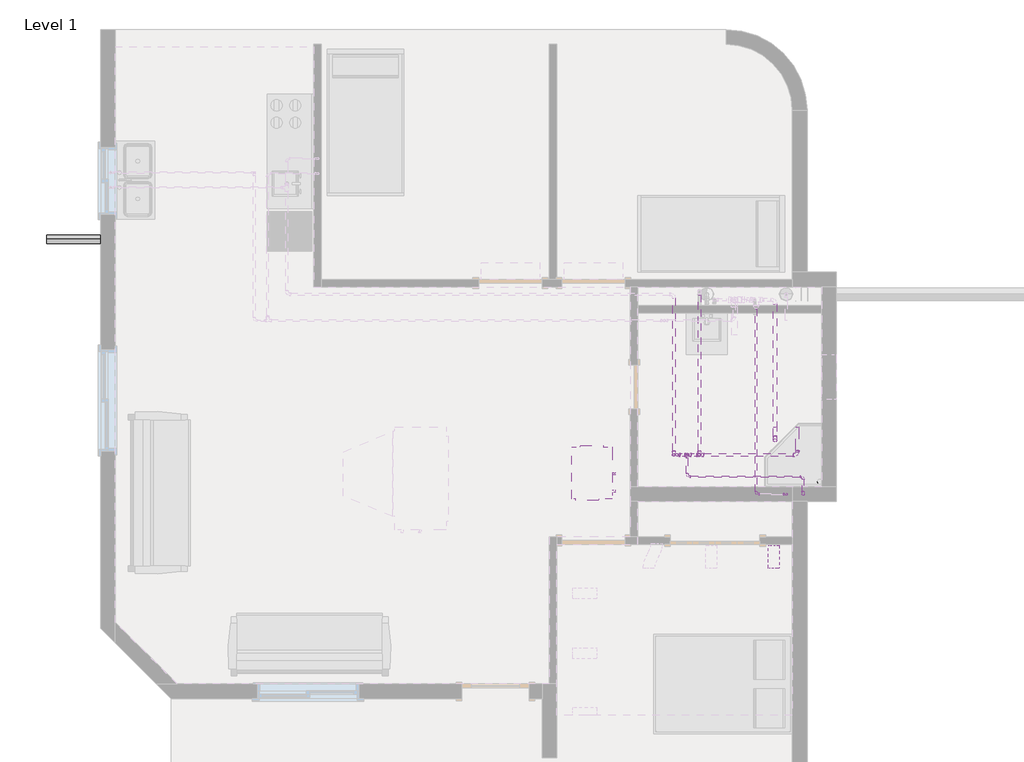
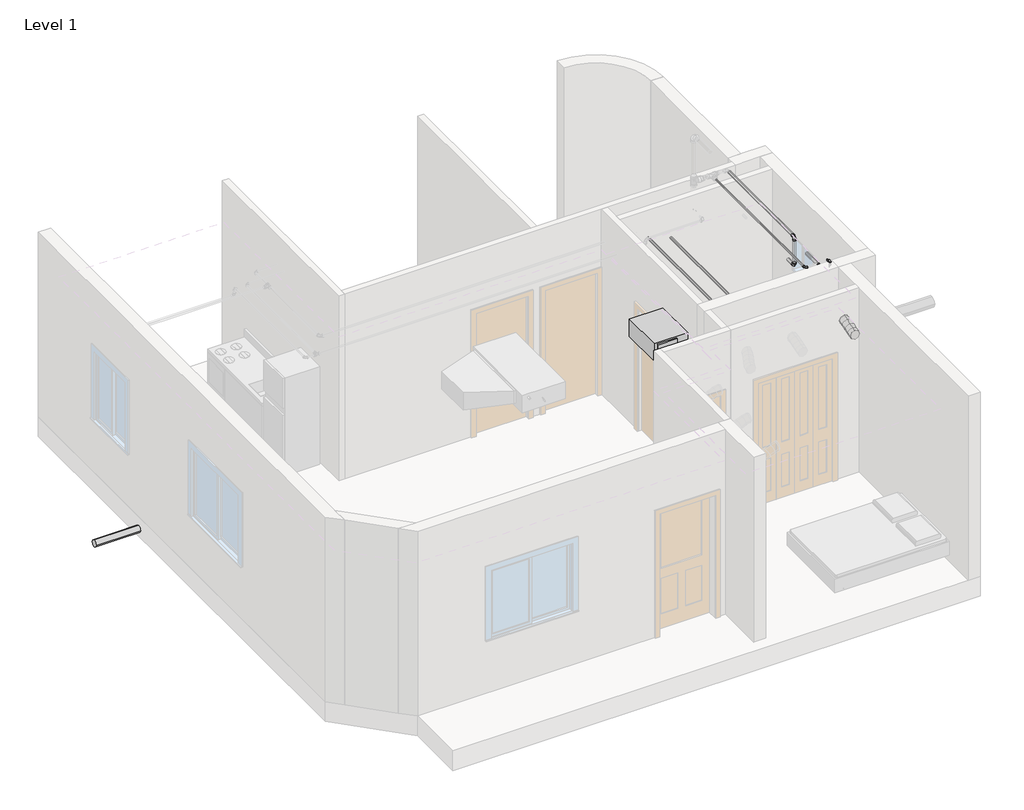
# One storey, part 3 of 5: 24 pipe segments, 22 pipe fittings, 1 duct segment, 1 proxy.
"""IFC4 building model written with IfcOpenShell, lengths in millimetres."""

from ifc_helpers import new_model, si_unit, point, frame, frame_2d, origin, place, context, project, spatial, circle_curve, ellipse_curve, trimmed, segment, composite_curve, outline, extrude, transform, mapped, element, save
from ifc_brep_helpers import plane_surface, cylinder_surface, advanced_brep
from components import mechanical_equipment_27d020f6, m_bend_pvc_sch_40_dwv_standard_48d77e49, m_bend_pvc_sch_40_dwv_standard_b153bf5a, m_bend_pvc_sch_40_dwv_standard_42e46e6b, m_bend_pvc_sch_40_dwv_standard_1fb0f857, m_bend_pvc_sch_40_dwv_standard_1eaeee76, m_reducer_pvc_sch_40_dwv_standard_06ee5028, m_reducer_pvc_sch_40_dwv_standard_e0017546, m_reducer_pvc_sch_40_dwv_standard_3fc35695, m_tee_sanitary_pvc_sch_40_dwv_standard_8136c827, m_tee_sanitary_pvc_sch_40_dwv_standard_2f7d5431, m_tee_sanitary_pvc_sch_40_dwv_standard_d1848222

model = new_model("IFC4")

# Units and contexts
model_context = context("Model", 3, world=origin())
ifc_project = project(units=[si_unit("LENGTHUNIT", "METRE", prefix="MILLI")], contexts=[model_context])

# Site, building, storey
site = spatial("IfcSite", under=ifc_project)
building = spatial("IfcBuilding", under=site)
storey = spatial("IfcBuildingStorey", under=building, Name="Level 1", Elevation=0.0)

# Proxy
placement = place(None, origin())
mechanical_equipment_shape = mechanical_equipment_27d020f6(model_context)
element("IfcBuildingElementProxy", 1, Name="Fan_Coil_Unit-Daikin-FXSQ-P-StandardDuct-RetAirBack : 2.9kW, 230V/50Hz/1Ph", ObjectType="Fan_Coil_Unit-Daikin-FXSQ-P-StandardDuct-RetAirBack : 2.9kW, 230V/50Hz/1Ph", at=placement, inside=storey, context=model_context, shape_type="MappedRepresentation", body=[
    mapped(mechanical_equipment_shape, transform((-10685.2201033, -1785.4324328, 2600.0), x_axis=(1.0, 0.0, 0.0), y_axis=(0.0, 1.0, 0.0), z_axis=(0.0, 0.0, 1.0))),
])

# Duct segment
element("IfcDuctSegment", 2, ObjectType="Flex - Round", at=placement, inside=storey, context=model_context, shape_type="AdvancedBrep", body=[
    advanced_brep(
    [(-8287.4123896, -3081.9324328, 2659.95), (-8212.4123896, -3081.9324328, 2584.95), (-8137.4123896, -3081.9324328, 2659.95), (-8212.4123896, -3081.9324328, 2734.95), (-8287.4123896, -3070.077247, 2659.95), (-8212.4123896, -3063.0805395, 2584.95), (-8137.4123896, -3070.077247, 2659.95), (-8212.4123896, -3077.0739544, 2734.95), (-8287.4123896, -3002.6244853, 2672.6457498), (-8212.4123896, -2982.827057, 2600.0550618), (-8137.4123896, -3002.6244853, 2672.6457498), (-8212.4123896, -3022.4219137, 2745.2364378), (-8287.4123896, -2925.2596658, 2700.5763993), (-8212.4123896, -2899.7916924, 2630.032921), (-8137.4123896, -2925.2596658, 2700.5763993), (-8212.4123896, -2950.7276393, 2771.1198776), (-8287.4123896, -2768.5868988, 2741.2027987), (-8212.4123896, -2768.5868988, 2816.2027987), (-8137.4123896, -2768.5868988, 2741.2027987), (-8212.4123896, -2768.5868988, 2666.2027987), (-8287.4123896, -2847.8948463, 2728.5070489), (-8212.4123896, -2828.097418, 2655.9163609), (-8137.4123896, -2847.8948463, 2728.5070489), (-8212.4123896, -2867.6922746, 2801.0977368), (-8287.4123896, -2780.4420847, 2741.2027987), (-8212.4123896, -2773.4453772, 2666.2027987), (-8137.4123896, -2780.4420847, 2741.2027987), (-8212.4123896, -2787.4387921, 2816.2027987)],
    [
        (0, 1, circle_curve(frame((-8212.4123896, -3081.9324328, 2659.95), z_axis=(0.0, -1.0, 0.0), x_axis=(-1.0, 0.0, 0.0)), 75.0)),
        (1, 2, circle_curve(frame((-8212.4123896, -3081.9324328, 2659.95), z_axis=(0.0, -1.0, 0.0), x_axis=(-1.0, 0.0, 0.0)), 75.0)),
        (2, 3, circle_curve(frame((-8212.4123896, -3081.9324328, 2659.95), z_axis=(0.0, -1.0, 0.0), x_axis=(-1.0, 0.0, 0.0)), 75.0)),
        (3, 0, circle_curve(frame((-8212.4123896, -3081.9324328, 2659.95), z_axis=(0.0, -1.0, 0.0), x_axis=(-1.0, 0.0, 0.0)), 75.0)),
        (0, 4),
        (4, 5, ellipse_curve(frame((-8212.4123896, -3070.077247, 2659.95), z_axis=(0.0, -0.9956767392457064, -0.092886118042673), x_axis=(0.0, -0.09288611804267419, 0.9956767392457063)), 75.3256524, 75.0)),
        (5, 1),
        (5, 6, ellipse_curve(frame((-8212.4123896, -3070.077247, 2659.95), z_axis=(0.0, -0.9956767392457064, -0.092886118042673), x_axis=(0.0, -0.09288611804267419, 0.9956767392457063)), 75.3256524, 75.0)),
        (6, 2),
        (6, 7, ellipse_curve(frame((-8212.4123896, -3070.077247, 2659.95), z_axis=(0.0, -0.9956767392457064, -0.092886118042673), x_axis=(0.0, -0.09288611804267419, 0.9956767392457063)), 75.3256524, 75.0)),
        (7, 3),
        (7, 4, ellipse_curve(frame((-8212.4123896, -3070.077247, 2659.95), z_axis=(0.0, -0.9956767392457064, -0.092886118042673), x_axis=(0.0, -0.09288611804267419, 0.9956767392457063)), 75.3256524, 75.0)),
        (4, 8),
        (8, 9, ellipse_curve(frame((-8212.4123896, -3002.6244853, 2672.6457498), z_axis=(0.0, -0.9647639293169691, -0.263117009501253), x_axis=(0.0, -0.26311700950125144, 0.9647639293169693)), 75.2419175, 75.0)),
        (9, 5),
        (9, 10, ellipse_curve(frame((-8212.4123896, -3002.6244853, 2672.6457498), z_axis=(0.0, -0.9647639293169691, -0.263117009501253), x_axis=(0.0, -0.26311700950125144, 0.9647639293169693)), 75.2419175, 75.0)),
        (10, 6),
        (10, 11, ellipse_curve(frame((-8212.4123896, -3002.6244853, 2672.6457498), z_axis=(0.0, -0.9647639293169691, -0.263117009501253), x_axis=(0.0, -0.26311700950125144, 0.9647639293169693)), 75.2419175, 75.0)),
        (11, 7),
        (11, 8, ellipse_curve(frame((-8212.4123896, -3002.6244853, 2672.6457498), z_axis=(0.0, -0.9647639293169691, -0.263117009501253), x_axis=(0.0, -0.26311700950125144, 0.9647639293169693)), 75.2419175, 75.0)),
        (8, 12),
        (12, 13, circle_curve(frame((-8212.4123896, -2925.2596658, 2700.5763993), z_axis=(0.0, -0.9405797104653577, -0.33957297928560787), x_axis=(-1.0, 0.0, 0.0)), 75.0)),
        (13, 9),
        (13, 14, circle_curve(frame((-8212.4123896, -2925.2596658, 2700.5763993), z_axis=(0.0, -0.9405797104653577, -0.33957297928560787), x_axis=(-1.0, 0.0, 0.0)), 75.0)),
        (14, 10),
        (14, 15, circle_curve(frame((-8212.4123896, -2925.2596658, 2700.5763993), z_axis=(0.0, -0.9405797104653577, -0.33957297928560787), x_axis=(-1.0, 0.0, 0.0)), 75.0)),
        (15, 11),
        (15, 12, circle_curve(frame((-8212.4123896, -2925.2596658, 2700.5763993), z_axis=(0.0, -0.9405797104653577, -0.33957297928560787), x_axis=(-1.0, 0.0, 0.0)), 75.0)),
        (16, 17, circle_curve(frame((-8212.4123896, -2768.5868988, 2741.2027987), z_axis=(0.0, 1.0, 0.0), x_axis=(-1.0, 0.0, 0.0)), 75.0)),
        (17, 18, circle_curve(frame((-8212.4123896, -2768.5868988, 2741.2027987), z_axis=(0.0, 1.0, 0.0), x_axis=(-1.0, 0.0, 0.0)), 75.0)),
        (18, 19, circle_curve(frame((-8212.4123896, -2768.5868988, 2741.2027987), z_axis=(0.0, 1.0, 0.0), x_axis=(-1.0, 0.0, 0.0)), 75.0)),
        (19, 16, circle_curve(frame((-8212.4123896, -2768.5868988, 2741.2027987), z_axis=(0.0, 1.0, 0.0), x_axis=(-1.0, 0.0, 0.0)), 75.0)),
        (12, 20),
        (20, 21, ellipse_curve(frame((-8212.4123896, -2847.8948463, 2728.5070489), z_axis=(0.0, -0.9647639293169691, -0.26311700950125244), x_axis=(0.0, 0.2631170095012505, -0.9647639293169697)), 75.2419175, 75.0)),
        (21, 13),
        (21, 22, ellipse_curve(frame((-8212.4123896, -2847.8948463, 2728.5070489), z_axis=(0.0, -0.9647639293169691, -0.26311700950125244), x_axis=(0.0, 0.2631170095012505, -0.9647639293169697)), 75.2419175, 75.0)),
        (22, 14),
        (22, 23, ellipse_curve(frame((-8212.4123896, -2847.8948463, 2728.5070489), z_axis=(0.0, -0.9647639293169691, -0.26311700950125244), x_axis=(0.0, 0.2631170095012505, -0.9647639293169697)), 75.2419175, 75.0)),
        (23, 15),
        (23, 20, ellipse_curve(frame((-8212.4123896, -2847.8948463, 2728.5070489), z_axis=(0.0, -0.9647639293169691, -0.26311700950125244), x_axis=(0.0, 0.2631170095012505, -0.9647639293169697)), 75.2419175, 75.0)),
        (20, 24),
        (24, 25, ellipse_curve(frame((-8212.4123896, -2780.4420847, 2741.2027987), z_axis=(0.0, -0.9956767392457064, -0.09288611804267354), x_axis=(0.0, 0.09288611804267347, -0.9956767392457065)), 75.3256524, 75.0)),
        (25, 21),
        (25, 26, ellipse_curve(frame((-8212.4123896, -2780.4420847, 2741.2027987), z_axis=(0.0, -0.9956767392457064, -0.09288611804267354), x_axis=(0.0, 0.09288611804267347, -0.9956767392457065)), 75.3256524, 75.0)),
        (26, 22),
        (26, 27, ellipse_curve(frame((-8212.4123896, -2780.4420847, 2741.2027987), z_axis=(0.0, -0.9956767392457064, -0.09288611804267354), x_axis=(0.0, 0.09288611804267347, -0.9956767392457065)), 75.3256524, 75.0)),
        (27, 23),
        (27, 24, ellipse_curve(frame((-8212.4123896, -2780.4420847, 2741.2027987), z_axis=(0.0, -0.9956767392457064, -0.09288611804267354), x_axis=(0.0, 0.09288611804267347, -0.9956767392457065)), 75.3256524, 75.0)),
        (24, 16),
        (19, 25),
        (18, 26),
        (17, 27),
    ],
    [
        plane_surface(frame((-8287.4123896, -3081.9324328, 2659.95), z_axis=(0.0, -1.0, 0.0), x_axis=(0.0, 0.0, 1.0))),
        cylinder_surface(frame((-8212.4123896, -3081.9324328, 2659.95), z_axis=(0.0, -1.0, 0.0), x_axis=(-1.0, 0.0, 0.0)), 75.0),
        cylinder_surface(frame((-8212.4123896, -3070.077247, 2659.95), z_axis=(0.0, -0.9827443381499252, -0.18496909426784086), x_axis=(-1.0, 0.0, 0.0)), 75.0),
        cylinder_surface(frame((-8212.4123896, -3002.6244853, 2672.6457498), z_axis=(0.0, -0.9405797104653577, -0.33957297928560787), x_axis=(-1.0, 0.0, 0.0)), 75.0),
        plane_surface(frame((-8287.4123896, -2768.5868988, 2741.2027987), z_axis=(0.0, 1.0, 0.0), x_axis=(0.0, 0.0, 1.0))),
        cylinder_surface(frame((-8212.4123896, -2925.2596658, 2700.5763993), z_axis=(0.0, -0.9405797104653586, -0.3395729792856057), x_axis=(-1.0, 0.0, 0.0)), 75.0),
        cylinder_surface(frame((-8212.4123896, -2847.8948463, 2728.5070489), z_axis=(0.0, -0.9827443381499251, -0.18496909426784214), x_axis=(-1.0, 0.0, 0.0)), 75.0),
        cylinder_surface(frame((-8212.4123896, -2780.4420847, 2741.2027987), z_axis=(0.0, -1.0, 0.0), x_axis=(-1.0, 0.0, 0.0)), 75.0),
    ],
    [
        (0, [[1, 2, 3, 4]]),
        (1, [[-1, 5, 6, 7]]),
        (1, [[-2, -7, 8, 9]]),
        (1, [[-3, -9, 10, 11]]),
        (1, [[-4, -11, 12, -5]]),
        (2, [[-6, 13, 14, 15]]),
        (2, [[-8, -15, 16, 17]]),
        (2, [[-10, -17, 18, 19]]),
        (2, [[-12, -19, 20, -13]]),
        (3, [[-14, 21, 22, 23]]),
        (3, [[-16, -23, 24, 25]]),
        (3, [[-18, -25, 26, 27]]),
        (3, [[-20, -27, 28, -21]]),
        (4, [[29, 30, 31, 32]]),
        (5, [[-22, 33, 34, 35]]),
        (5, [[-24, -35, 36, 37]]),
        (5, [[-26, -37, 38, 39]]),
        (5, [[-28, -39, 40, -33]]),
        (6, [[-34, 41, 42, 43]]),
        (6, [[-36, -43, 44, 45]]),
        (6, [[-38, -45, 46, 47]]),
        (6, [[-40, -47, 48, -41]]),
        (7, [[-42, 49, -32, 50]]),
        (7, [[-44, -50, -31, 51]]),
        (7, [[-46, -51, -30, 52]]),
        (7, [[-48, -52, -29, -49]]),
    ],
),
])

# Pipe fittings
m_bend_pvc_sch_40_dwv_standard_shape = m_bend_pvc_sch_40_dwv_standard_48d77e49(model_context)
element("IfcPipeFitting", 3, ObjectType="M_Bend - PVC - Sch 40 - DWV : Standard", at=placement, inside=storey, context=model_context, shape_type="MappedRepresentation", body=[
    mapped(m_bend_pvc_sch_40_dwv_standard_shape, transform((-8198.1623896, -1340.0250154, 2800.0), x_axis=(0.0, 0.0, -1.0), y_axis=(0.0, 1.0, 0.0), z_axis=(1.0, 0.0, 0.0))),
])
element("IfcPipeFitting", 4, ObjectType="M_Bend - PVC - Sch 40 - DWV : Standard", at=placement, inside=storey, context=model_context, shape_type="MappedRepresentation", body=[
    mapped(m_bend_pvc_sch_40_dwv_standard_shape, transform((-7893.3623896, -1540.0250154, 2800.0), x_axis=(1.0, 0.0, 0.0), y_axis=(0.0, 1.0, 0.0), z_axis=(0.0, 0.0, 1.0))),
])
element("IfcPipeFitting", 5, ObjectType="M_Bend - PVC - Sch 40 - DWV : Standard", at=placement, inside=storey, context=model_context, shape_type="MappedRepresentation", body=[
    mapped(m_bend_pvc_sch_40_dwv_standard_shape, transform((-8198.1623896, -1340.0250154, 3300.0), x_axis=(0.0, 0.0, 1.0), y_axis=(0.0, 1.0, 0.0), z_axis=(-1.0, 0.0, 0.0))),
])
m_bend_pvc_sch_40_dwv_standard_2_shape = m_bend_pvc_sch_40_dwv_standard_b153bf5a(model_context)
element("IfcPipeFitting", 6, ObjectType="M_Bend - PVC - Sch 40 - DWV : Standard", at=placement, inside=storey, context=model_context, shape_type="MappedRepresentation", body=[
    mapped(m_bend_pvc_sch_40_dwv_standard_2_shape, transform((-9225.3942941, -1540.0250154, 2600.0), x_axis=(0.0, 0.0, -1.0), y_axis=(0.0, 1.0, 0.0), z_axis=(1.0, 0.0, 0.0))),
])
element("IfcPipeFitting", 7, ObjectType="M_Bend - PVC - Sch 40 - DWV : Standard", at=placement, inside=storey, context=model_context, shape_type="MappedRepresentation", body=[
    mapped(m_bend_pvc_sch_40_dwv_standard_2_shape, transform((-9572.9123897, -1540.0250154, 2690.0000079), x_axis=(0.0, 0.0, -1.0), y_axis=(0.0, 1.0, 0.0), z_axis=(1.0, 0.0, 0.0))),
])
element("IfcPipeFitting", 8, ObjectType="M_Bend - PVC - Sch 40 - DWV : Standard", at=placement, inside=storey, context=model_context, shape_type="MappedRepresentation", body=[
    mapped(m_bend_pvc_sch_40_dwv_standard_2_shape, transform((-9572.9123897, -1540.0250154, 2800.0), x_axis=(0.0, 0.0, 1.0), y_axis=(1.0, 0.0, 0.0), z_axis=(0.0, 1.0, 0.0))),
])
m_bend_pvc_sch_40_dwv_standard_3_shape = m_bend_pvc_sch_40_dwv_standard_42e46e6b(model_context)
element("IfcPipeFitting", 9, ObjectType="M_Bend - PVC - Sch 40 - DWV : Standard", at=placement, inside=storey, context=model_context, shape_type="MappedRepresentation", body=[
    mapped(m_bend_pvc_sch_40_dwv_standard_3_shape, transform((-7816.1123896, -2075.4324328, 914.4), x_axis=(0.0, -1.0, 0.0), y_axis=(0.0, 0.0, 1.0), z_axis=(-1.0, 0.0, 0.0))),
])
element("IfcPipeFitting", 10, ObjectType="M_Bend - PVC - Sch 40 - DWV : Standard", at=placement, inside=storey, context=model_context, shape_type="MappedRepresentation", body=[
    mapped(m_bend_pvc_sch_40_dwv_standard_3_shape, transform((-7816.1123896, -2075.4324328, 2600.0), x_axis=(0.0, 0.0, 1.0), y_axis=(0.0, 1.0, 0.0), z_axis=(-1.0, 0.0, 0.0))),
])
element("IfcPipeFitting", 11, ObjectType="M_Bend - PVC - Sch 40 - DWV : Standard", at=placement, inside=storey, context=model_context, shape_type="MappedRepresentation", body=[
    mapped(m_bend_pvc_sch_40_dwv_standard_3_shape, transform((-7816.1123896, -1835.4324328, 2600.0), x_axis=(0.0, 1.0, 0.0), y_axis=(-1.0, 0.0, 0.0), z_axis=(0.0, 0.0, 1.0))),
])
element("IfcPipeFitting", 12, ObjectType="M_Bend - PVC - Sch 40 - DWV : Standard", at=placement, inside=storey, context=model_context, shape_type="MappedRepresentation", body=[
    mapped(m_bend_pvc_sch_40_dwv_standard_3_shape, transform((-9391.1123896, -1835.4324328, 2600.0), x_axis=(0.0, -1.0, 0.0), y_axis=(1.0, 0.0, 0.0), z_axis=(0.0, 0.0, 1.0))),
])
element("IfcPipeFitting", 13, ObjectType="M_Bend - PVC - Sch 40 - DWV : Standard", at=placement, inside=storey, context=model_context, shape_type="MappedRepresentation", body=[
    mapped(m_bend_pvc_sch_40_dwv_standard_3_shape, transform((-9391.1123896, -1540.0250154, 2600.0), x_axis=(0.0, 1.0, 0.0), y_axis=(0.0, 0.0, 1.0), z_axis=(1.0, 0.0, 0.0))),
])
element("IfcPipeFitting", 14, ObjectType="M_Bend - PVC - Sch 40 - DWV : Standard", at=placement, inside=storey, context=model_context, shape_type="MappedRepresentation", body=[
    mapped(m_bend_pvc_sch_40_dwv_standard_3_shape, transform((-8044.7123896, -2075.4324328, 3300.0), x_axis=(0.0, 0.0, 1.0), y_axis=(-1.0, 0.0, 0.0), z_axis=(0.0, -1.0, 0.0))),
])
element("IfcPipeFitting", 15, ObjectType="M_Bend - PVC - Sch 40 - DWV : Standard", at=placement, inside=storey, context=model_context, shape_type="MappedRepresentation", body=[
    mapped(m_bend_pvc_sch_40_dwv_standard_3_shape, transform((-8453.6983271, -2075.4324328, 3300.0), x_axis=(0.0, -1.0, 0.0), y_axis=(1.0, 0.0, 0.0), z_axis=(0.0, 0.0, 1.0))),
])
m_bend_pvc_sch_40_dwv_standard_4_shape = m_bend_pvc_sch_40_dwv_standard_1fb0f857(model_context)
element("IfcPipeFitting", 16, ObjectType="M_Bend - PVC - Sch 40 - DWV : Standard", at=placement, inside=storey, context=model_context, shape_type="MappedRepresentation", body=[
    mapped(m_bend_pvc_sch_40_dwv_standard_4_shape, transform((-8472.9123896, -3.9730578, -205.0), x_axis=(0.0, 0.0, -1.0), y_axis=(0.0, 1.0, 0.0), z_axis=(1.0, 0.0, 0.0))),
])
m_bend_pvc_sch_40_dwv_standard_5_shape = m_bend_pvc_sch_40_dwv_standard_1eaeee76(model_context)
element("IfcPipeFitting", 17, ObjectType="M_Bend - PVC - Sch 40 - DWV : Standard", at=placement, inside=storey, context=model_context, shape_type="MappedRepresentation", body=[
    mapped(m_bend_pvc_sch_40_dwv_standard_5_shape, transform((-7589.6865833, -1905.1933223, -205.0897005), x_axis=(0.0, -1.0, 0.0), y_axis=(0.00127865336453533, 0.0, 0.9999991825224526), z_axis=(-0.9999991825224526, 0.0, 0.00127865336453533))),
])
m_reducer_pvc_sch_40_dwv_standard_shape = m_reducer_pvc_sch_40_dwv_standard_06ee5028(model_context)
element("IfcPipeFitting", 18, ObjectType="M_Reducer - PVC - Sch 40 - DWV : Standard", at=placement, inside=storey, context=model_context, shape_type="MappedRepresentation", body=[
    mapped(m_reducer_pvc_sch_40_dwv_standard_shape, transform((-9225.3942941, -1540.0250154, 2742.85), x_axis=(0.0, 0.0, -1.0), y_axis=(-1.0, 0.0, 0.0), z_axis=(0.0, 1.0, 0.0))),
])
m_reducer_pvc_sch_40_dwv_standard_2_shape = m_reducer_pvc_sch_40_dwv_standard_e0017546(model_context)
element("IfcPipeFitting", 19, ObjectType="M_Reducer - PVC - Sch 40 - DWV : Standard", at=placement, inside=storey, context=model_context, shape_type="MappedRepresentation", body=[
    mapped(m_reducer_pvc_sch_40_dwv_standard_2_shape, transform((-9391.1123896, -1540.0250154, 2710.0039062), x_axis=(0.0, 0.0, 1.0), y_axis=(-1.0, 0.0, 0.0), z_axis=(0.0, -1.0, 0.0))),
])
m_reducer_pvc_sch_40_dwv_standard_3_shape = m_reducer_pvc_sch_40_dwv_standard_3fc35695(model_context)
element("IfcPipeFitting", 20, ObjectType="M_Reducer - PVC - Sch 40 - DWV : Standard", at=placement, inside=storey, context=model_context, shape_type="MappedRepresentation", body=[
    mapped(m_reducer_pvc_sch_40_dwv_standard_3_shape, transform((-9520.2983272, -1540.0250154, 2800.0), x_axis=(1.0, 0.0, 0.0), y_axis=(0.0, 1.0, 0.0), z_axis=(0.0, 0.0, 1.0))),
])
m_tee_sanitary_pvc_sch_40_dwv_standard_shape = m_tee_sanitary_pvc_sch_40_dwv_standard_8136c827(model_context)
element("IfcPipeFitting", 21, ObjectType="M_Tee Sanitary - PVC - Sch 40 - DWV : Standard", at=placement, inside=storey, context=model_context, shape_type="MappedRepresentation", body=[
    mapped(m_tee_sanitary_pvc_sch_40_dwv_standard_shape, transform((-9225.3942941, -1540.0250154, 2800.0), x_axis=(-1.0, 0.0, 0.0), y_axis=(0.0, 0.0, 1.0), z_axis=(0.0, 1.0, 0.0))),
])
element("IfcPipeFitting", 22, ObjectType="M_Tee Sanitary - PVC - Sch 40 - DWV : Standard", at=placement, inside=storey, context=model_context, shape_type="MappedRepresentation", body=[
    mapped(m_tee_sanitary_pvc_sch_40_dwv_standard_shape, transform((-9391.1123896, -1540.0250154, 2800.0), x_axis=(-1.0, 0.0, 0.0), y_axis=(0.0, 0.0, 1.0), z_axis=(0.0, 1.0, 0.0))),
])
m_tee_sanitary_pvc_sch_40_dwv_standard_2_shape = m_tee_sanitary_pvc_sch_40_dwv_standard_2f7d5431(model_context)
element("IfcPipeFitting", 23, ObjectType="M_Tee Sanitary - PVC - Sch 40 - DWV : Standard", at=placement, inside=storey, context=model_context, shape_type="MappedRepresentation", body=[
    mapped(m_tee_sanitary_pvc_sch_40_dwv_standard_2_shape, transform((-16857.3123896, 1940.3425672, -205.0), x_axis=(0.0, 1.0, 0.0), y_axis=(0.0, 0.0, -1.0), z_axis=(-1.0, 0.0, 0.0))),
])
m_tee_sanitary_pvc_sch_40_dwv_standard_3_shape = m_tee_sanitary_pvc_sch_40_dwv_standard_d1848222(model_context)
element("IfcPipeFitting", 24, ObjectType="M_Tee Sanitary - PVC - Sch 40 - DWV : Standard", at=placement, inside=storey, context=model_context, shape_type="MappedRepresentation", body=[
    mapped(m_tee_sanitary_pvc_sch_40_dwv_standard_3_shape, transform((-16857.3123896, 1392.8931268, -205.0), x_axis=(1.0, 0.0, 0.0), y_axis=(0.0, -1.0, 0.0), z_axis=(0.0, 0.0, -1.0))),
])

# Pipe segments
element("IfcPipeSegment", 25, ObjectType="PVC - DWV", at=placement, inside=storey, context=model_context, shape_type="SweptSolid", body=[
    extrude(outline(composite_curve([segment(trimmed(circle_curve(frame_2d((2600.0, -9225.3942941)), 16.7005), [point((2600.0, -9242.0947941))], [point((2583.2995, -9225.3942941))], False, "CARTESIAN"), True, "CONTINUOUS"), segment(trimmed(circle_curve(frame_2d((2600.0, -9225.3942941)), 16.7005), [point((2583.2995, -9225.3942941))], [point((2600.0, -9208.6937941))], False, "CARTESIAN"), True, "CONTINUOUS"), segment(trimmed(circle_curve(frame_2d((2600.0, -9225.3942941)), 16.7005), [point((2600.0, -9208.6937941))], [point((2616.7005, -9225.3942941))], False, "CARTESIAN"), True, "CONTINUOUS"), segment(trimmed(circle_curve(frame_2d((2600.0, -9225.3942941)), 16.7005), [point((2616.7005, -9225.3942941))], [point((2600.0, -9242.0947941))], False, "CARTESIAN"), True, "CONTINUOUS")], self_intersect=False)), frame((0.0, -1487.4109529, 0.0), z_axis=(0.0, 1.0, 0.0), x_axis=(0.0, 0.0, 1.0)), (0.0, 0.0, 1.0), 2119.3644576),
])
element("IfcPipeSegment", 26, ObjectType="PVC - DWV", at=placement, inside=storey, context=model_context, shape_type="SweptSolid", body=[
    extrude(outline(composite_curve([segment(trimmed(circle_curve(frame_2d((914.4, -7816.1123896)), 10.668), [point((914.4, -7826.7803896))], [point((903.732, -7816.1123896))], False, "CARTESIAN"), True, "CONTINUOUS"), segment(trimmed(circle_curve(frame_2d((914.4, -7816.1123896)), 10.668), [point((903.732, -7816.1123896))], [point((914.4, -7805.4443896))], False, "CARTESIAN"), True, "CONTINUOUS"), segment(trimmed(circle_curve(frame_2d((914.4, -7816.1123896)), 10.668), [point((914.4, -7805.4443896))], [point((925.068, -7816.1123896))], False, "CARTESIAN"), True, "CONTINUOUS"), segment(trimmed(circle_curve(frame_2d((914.4, -7816.1123896)), 10.668), [point((925.068, -7816.1123896))], [point((914.4, -7826.7803896))], False, "CARTESIAN"), True, "CONTINUOUS")], self_intersect=False)), frame((0.0, -2034.4183703, 0.0), z_axis=(0.0, 1.0, 0.0), x_axis=(0.0, 0.0, 1.0)), (0.0, 0.0, 1.0), 58.9859375),
])
element("IfcPipeSegment", 27, ObjectType="PVC - DWV", at=placement, inside=storey, context=model_context, shape_type="SweptSolid", body=[
    extrude(outline(composite_curve([segment(trimmed(circle_curve(frame_2d((-7816.1123896, -2075.4324328)), 10.668), [point((-7826.7803896, -2075.4324328))], [point((-7816.1123896, -2064.7644328))], False, "CARTESIAN"), True, "CONTINUOUS"), segment(trimmed(circle_curve(frame_2d((-7816.1123896, -2075.4324328)), 10.668), [point((-7816.1123896, -2064.7644328))], [point((-7805.4443896, -2075.4324328))], False, "CARTESIAN"), True, "CONTINUOUS"), segment(trimmed(circle_curve(frame_2d((-7816.1123896, -2075.4324328)), 10.668), [point((-7805.4443896, -2075.4324328))], [point((-7816.1123896, -2086.1004328))], False, "CARTESIAN"), True, "CONTINUOUS"), segment(trimmed(circle_curve(frame_2d((-7816.1123896, -2075.4324328)), 10.668), [point((-7816.1123896, -2086.1004328))], [point((-7826.7803896, -2075.4324328))], False, "CARTESIAN"), True, "CONTINUOUS")], self_intersect=False)), frame((0.0, 0.0, 955.4140625), z_axis=(0.0, 0.0, 1.0), x_axis=(1.0, 0.0, 0.0)), (0.0, 0.0, 1.0), 1603.571875),
])
element("IfcPipeSegment", 28, ObjectType="PVC - DWV", at=placement, inside=storey, context=model_context, shape_type="SweptSolid", body=[
    extrude(outline(composite_curve([segment(trimmed(circle_curve(frame_2d((2600.0, -7816.1123896)), 10.668), [point((2600.0, -7805.4443896))], [point((2610.668, -7816.1123896))], False, "CARTESIAN"), True, "CONTINUOUS"), segment(trimmed(circle_curve(frame_2d((2600.0, -7816.1123896)), 10.668), [point((2610.668, -7816.1123896))], [point((2600.0, -7826.7803896))], False, "CARTESIAN"), True, "CONTINUOUS"), segment(trimmed(circle_curve(frame_2d((2600.0, -7816.1123896)), 10.668), [point((2600.0, -7826.7803896))], [point((2589.332, -7816.1123896))], False, "CARTESIAN"), True, "CONTINUOUS"), segment(trimmed(circle_curve(frame_2d((2600.0, -7816.1123896)), 10.668), [point((2589.332, -7816.1123896))], [point((2600.0, -7805.4443896))], False, "CARTESIAN"), True, "CONTINUOUS")], self_intersect=False)), frame((0.0, -2034.4183703, 0.0), z_axis=(0.0, 1.0, 0.0), x_axis=(0.0, 0.0, 1.0)), (0.0, 0.0, 1.0), 157.971875),
])
element("IfcPipeSegment", 29, ObjectType="PVC - DWV", at=placement, inside=storey, context=model_context, shape_type="SweptSolid", body=[
    extrude(outline(composite_curve([segment(trimmed(circle_curve(frame_2d((-8472.9123896, -3.9730578)), 57.15), [point((-8415.7623896, -3.9730578))], [point((-8472.9123896, -61.1230578))], False, "CARTESIAN"), True, "CONTINUOUS"), segment(trimmed(circle_curve(frame_2d((-8472.9123896, -3.9730578)), 57.15), [point((-8472.9123896, -61.1230578))], [point((-8530.0623896, -3.9730578))], False, "CARTESIAN"), True, "CONTINUOUS"), segment(trimmed(circle_curve(frame_2d((-8472.9123896, -3.9730578)), 57.15), [point((-8530.0623896, -3.9730578))], [point((-8472.9123896, 53.1769422))], False, "CARTESIAN"), True, "CONTINUOUS"), segment(trimmed(circle_curve(frame_2d((-8472.9123896, -3.9730578)), 57.15), [point((-8472.9123896, 53.1769422))], [point((-8415.7623896, -3.9730578))], False, "CARTESIAN"), True, "CONTINUOUS")], self_intersect=False)), frame((0.0, 0.0, -62.125), z_axis=(0.0, 0.0, 1.0), x_axis=(1.0, 0.0, 0.0)), (0.0, 0.0, 1.0), 62.125),
])
element("IfcPipeSegment", 30, ObjectType="PVC - DWV", at=placement, inside=storey, context=model_context, shape_type="SweptSolid", body=[
    extrude(outline(composite_curve([segment(trimmed(circle_curve(frame_2d((-16857.3123896, 1940.3425672)), 24.13), [point((-16833.1823896, 1940.3425672))], [point((-16857.3123896, 1916.2125672))], False, "CARTESIAN"), True, "CONTINUOUS"), segment(trimmed(circle_curve(frame_2d((-16857.3123896, 1940.3425672)), 24.13), [point((-16857.3123896, 1916.2125672))], [point((-16881.4423896, 1940.3425672))], False, "CARTESIAN"), True, "CONTINUOUS"), segment(trimmed(circle_curve(frame_2d((-16857.3123896, 1940.3425672)), 24.13), [point((-16881.4423896, 1940.3425672))], [point((-16857.3123896, 1964.4725672))], False, "CARTESIAN"), True, "CONTINUOUS"), segment(trimmed(circle_curve(frame_2d((-16857.3123896, 1940.3425672)), 24.13), [point((-16857.3123896, 1964.4725672))], [point((-16833.1823896, 1940.3425672))], False, "CARTESIAN"), True, "CONTINUOUS")], self_intersect=False)), frame((0.0, 0.0, -38.5398437), z_axis=(0.0, 0.0, 1.0), x_axis=(1.0, 0.0, 0.0)), (0.0, 0.0, 1.0), 739.0148437),
])
element("IfcPipeSegment", 31, ObjectType="PVC - DWV", at=placement, inside=storey, context=model_context, shape_type="SweptSolid", body=[
    extrude(outline(composite_curve([segment(trimmed(circle_curve(frame_2d((1392.8931268, -205.0)), 57.15), [point((1450.0431268, -205.0))], [point((1392.8931268, -262.15))], False, "CARTESIAN"), True, "CONTINUOUS"), segment(trimmed(circle_curve(frame_2d((1392.8931268, -205.0)), 57.15), [point((1392.8931268, -262.15))], [point((1335.7431268, -205.0))], False, "CARTESIAN"), True, "CONTINUOUS"), segment(trimmed(circle_curve(frame_2d((1392.8931268, -205.0)), 57.15), [point((1335.7431268, -205.0))], [point((1392.8931268, -147.85))], False, "CARTESIAN"), True, "CONTINUOUS"), segment(trimmed(circle_curve(frame_2d((1392.8931268, -205.0)), 57.15), [point((1392.8931268, -147.85))], [point((1450.0431268, -205.0))], False, "CARTESIAN"), True, "CONTINUOUS")], self_intersect=False)), frame((-18096.8060312, 0.0, 0.0), z_axis=(1.0, 0.0, 0.0), x_axis=(0.0, 1.0, 0.0)), (0.0, 0.0, 1.0), 1096.6186415),
])
element("IfcPipeSegment", 32, ObjectType="PVC - DWV", at=placement, inside=storey, context=model_context, shape_type="SweptSolid", body=[
    extrude(outline(composite_curve([segment(trimmed(circle_curve(frame_2d((-205.0, -16857.3123896)), 36.5125), [point((-205.0, -16820.7998896))], [point((-168.4875, -16857.3123896))], False, "CARTESIAN"), True, "CONTINUOUS"), segment(trimmed(circle_curve(frame_2d((-205.0, -16857.3123896)), 36.5125), [point((-168.4875, -16857.3123896))], [point((-205.0, -16893.8248896))], False, "CARTESIAN"), True, "CONTINUOUS"), segment(trimmed(circle_curve(frame_2d((-205.0, -16857.3123896)), 36.5125), [point((-205.0, -16893.8248896))], [point((-241.5125, -16857.3123896))], False, "CARTESIAN"), True, "CONTINUOUS"), segment(trimmed(circle_curve(frame_2d((-205.0, -16857.3123896)), 36.5125), [point((-241.5125, -16857.3123896))], [point((-205.0, -16820.7998896))], False, "CARTESIAN"), True, "CONTINUOUS")], self_intersect=False)), frame((0.0, 1639.7142205, 0.0), z_axis=(0.0, 1.0, 0.0), x_axis=(0.0, 0.0, 1.0)), (0.0, 0.0, 1.0), 201.6142842),
])
element("IfcPipeSegment", 33, ObjectType="PVC - DWV", at=placement, inside=storey, context=model_context, shape_type="SweptSolid", body=[
    extrude(outline(composite_curve([segment(trimmed(circle_curve(frame_2d((-1835.4324328, 2600.0)), 10.668), [point((-1824.7644328, 2600.0))], [point((-1835.4324328, 2589.332))], False, "CARTESIAN"), True, "CONTINUOUS"), segment(trimmed(circle_curve(frame_2d((-1835.4324328, 2600.0)), 10.668), [point((-1835.4324328, 2589.332))], [point((-1846.1004328, 2600.0))], False, "CARTESIAN"), True, "CONTINUOUS"), segment(trimmed(circle_curve(frame_2d((-1835.4324328, 2600.0)), 10.668), [point((-1846.1004328, 2600.0))], [point((-1835.4324328, 2610.668))], False, "CARTESIAN"), True, "CONTINUOUS"), segment(trimmed(circle_curve(frame_2d((-1835.4324328, 2600.0)), 10.668), [point((-1835.4324328, 2610.668))], [point((-1824.7644328, 2600.0))], False, "CARTESIAN"), True, "CONTINUOUS")], self_intersect=False)), frame((-9350.0983271, 0.0, 0.0), z_axis=(1.0, 0.0, 0.0), x_axis=(0.0, 1.0, 0.0)), (0.0, 0.0, 1.0), 1492.971875),
])
element("IfcPipeSegment", 34, ObjectType="PVC - DWV", at=placement, inside=storey, context=model_context, shape_type="SweptSolid", body=[
    extrude(outline(composite_curve([segment(trimmed(circle_curve(frame_2d((2690.0, -9572.9123897)), 16.7005), [point((2690.0, -9589.6128897))], [point((2673.2995, -9572.9123897))], False, "CARTESIAN"), True, "CONTINUOUS"), segment(trimmed(circle_curve(frame_2d((2690.0, -9572.9123897)), 16.7005), [point((2673.2995, -9572.9123897))], [point((2690.0, -9556.2118897))], False, "CARTESIAN"), True, "CONTINUOUS"), segment(trimmed(circle_curve(frame_2d((2690.0, -9572.9123897)), 16.7005), [point((2690.0, -9556.2118897))], [point((2706.7005, -9572.9123897))], False, "CARTESIAN"), True, "CONTINUOUS"), segment(trimmed(circle_curve(frame_2d((2690.0, -9572.9123897)), 16.7005), [point((2706.7005, -9572.9123897))], [point((2690.0, -9589.6128897))], False, "CARTESIAN"), True, "CONTINUOUS")], self_intersect=False)), frame((0.0, -1487.4109529, 0.0), z_axis=(0.0, 1.0, 0.0), x_axis=(0.0, 0.0, 1.0)), (0.0, 0.0, 1.0), 2079.3644576),
])
element("IfcPipeSegment", 35, ObjectType="PVC - DWV", at=placement, inside=storey, context=model_context, shape_type="SweptSolid", body=[
    extrude(outline(composite_curve([segment(trimmed(circle_curve(frame_2d((2600.0, -9391.1123896)), 10.668), [point((2600.0, -9380.4443896))], [point((2610.668, -9391.1123896))], False, "CARTESIAN"), True, "CONTINUOUS"), segment(trimmed(circle_curve(frame_2d((2600.0, -9391.1123896)), 10.668), [point((2610.668, -9391.1123896))], [point((2600.0, -9401.7803896))], False, "CARTESIAN"), True, "CONTINUOUS"), segment(trimmed(circle_curve(frame_2d((2600.0, -9391.1123896)), 10.668), [point((2600.0, -9401.7803896))], [point((2589.332, -9391.1123896))], False, "CARTESIAN"), True, "CONTINUOUS"), segment(trimmed(circle_curve(frame_2d((2600.0, -9391.1123896)), 10.668), [point((2589.332, -9391.1123896))], [point((2600.0, -9380.4443896))], False, "CARTESIAN"), True, "CONTINUOUS")], self_intersect=False)), frame((0.0, -1794.4183703, 0.0), z_axis=(0.0, 1.0, 0.0), x_axis=(0.0, 0.0, 1.0)), (0.0, 0.0, 1.0), 213.3792924),
])
element("IfcPipeSegment", 36, ObjectType="PVC - DWV", at=placement, inside=storey, context=model_context, shape_type="SweptSolid", body=[
    extrude(outline(composite_curve([segment(trimmed(circle_curve(frame_2d((2800.0, -8198.1623896)), 21.082), [point((2800.0, -8177.0803896))], [point((2821.082, -8198.1623896))], False, "CARTESIAN"), True, "CONTINUOUS"), segment(trimmed(circle_curve(frame_2d((2800.0, -8198.1623896)), 21.082), [point((2821.082, -8198.1623896))], [point((2800.0, -8219.2443896))], False, "CARTESIAN"), True, "CONTINUOUS"), segment(trimmed(circle_curve(frame_2d((2800.0, -8198.1623896)), 21.082), [point((2800.0, -8219.2443896))], [point((2778.918, -8198.1623896))], False, "CARTESIAN"), True, "CONTINUOUS"), segment(trimmed(circle_curve(frame_2d((2800.0, -8198.1623896)), 21.082), [point((2778.918, -8198.1623896))], [point((2800.0, -8177.0803896))], False, "CARTESIAN"), True, "CONTINUOUS")], self_intersect=False)), frame((0.0, -1282.8750154, 0.0), z_axis=(0.0, 1.0, 0.0), x_axis=(0.0, 0.0, 1.0)), (0.0, 0.0, 1.0), 122.85),
])
element("IfcPipeSegment", 37, ObjectType="PVC - DWV", at=placement, inside=storey, context=model_context, shape_type="SweptSolid", body=[
    extrude(outline(composite_curve([segment(trimmed(circle_curve(frame_2d((3300.0, -8198.1623896)), 21.082), [point((3300.0, -8177.0803896))], [point((3321.082, -8198.1623896))], False, "CARTESIAN"), True, "CONTINUOUS"), segment(trimmed(circle_curve(frame_2d((3300.0, -8198.1623896)), 21.082), [point((3321.082, -8198.1623896))], [point((3300.0, -8219.2443896))], False, "CARTESIAN"), True, "CONTINUOUS"), segment(trimmed(circle_curve(frame_2d((3300.0, -8198.1623896)), 21.082), [point((3300.0, -8219.2443896))], [point((3278.918, -8198.1623896))], False, "CARTESIAN"), True, "CONTINUOUS"), segment(trimmed(circle_curve(frame_2d((3300.0, -8198.1623896)), 21.082), [point((3278.918, -8198.1623896))], [point((3300.0, -8177.0803896))], False, "CARTESIAN"), True, "CONTINUOUS")], self_intersect=False)), frame((0.0, -1282.8750154, 0.0), z_axis=(0.0, 1.0, 0.0), x_axis=(0.0, 0.0, 1.0)), (0.0, 0.0, 1.0), 1794.4175826),
])
element("IfcPipeSegment", 38, ObjectType="PVC - DWV", at=placement, inside=storey, context=model_context, shape_type="SweptSolid", body=[
    extrude(outline(composite_curve([segment(trimmed(circle_curve(frame_2d((-8198.1623896, -1340.0250154)), 21.082), [point((-8219.2443896, -1340.0250154))], [point((-8198.1623896, -1318.9430154))], False, "CARTESIAN"), True, "CONTINUOUS"), segment(trimmed(circle_curve(frame_2d((-8198.1623896, -1340.0250154)), 21.082), [point((-8198.1623896, -1318.9430154))], [point((-8177.0803896, -1340.0250154))], False, "CARTESIAN"), True, "CONTINUOUS"), segment(trimmed(circle_curve(frame_2d((-8198.1623896, -1340.0250154)), 21.082), [point((-8177.0803896, -1340.0250154))], [point((-8198.1623896, -1361.1070154))], False, "CARTESIAN"), True, "CONTINUOUS"), segment(trimmed(circle_curve(frame_2d((-8198.1623896, -1340.0250154)), 21.082), [point((-8198.1623896, -1361.1070154))], [point((-8219.2443896, -1340.0250154))], False, "CARTESIAN"), True, "CONTINUOUS")], self_intersect=False)), frame((0.0, 0.0, 2857.15), z_axis=(0.0, 0.0, 1.0), x_axis=(1.0, 0.0, 0.0)), (0.0, 0.0, 1.0), 385.7),
])
element("IfcPipeSegment", 39, ObjectType="PVC - DWV", at=placement, inside=storey, context=model_context, shape_type="SweptSolid", body=[
    extrude(outline(composite_curve([segment(trimmed(circle_curve(frame_2d((2800.0, -7893.3623896)), 21.082), [point((2800.0, -7872.2803896))], [point((2821.082, -7893.3623896))], False, "CARTESIAN"), True, "CONTINUOUS"), segment(trimmed(circle_curve(frame_2d((2800.0, -7893.3623896)), 21.082), [point((2821.082, -7893.3623896))], [point((2800.0, -7914.4443896))], False, "CARTESIAN"), True, "CONTINUOUS"), segment(trimmed(circle_curve(frame_2d((2800.0, -7893.3623896)), 21.082), [point((2800.0, -7914.4443896))], [point((2778.918, -7893.3623896))], False, "CARTESIAN"), True, "CONTINUOUS"), segment(trimmed(circle_curve(frame_2d((2800.0, -7893.3623896)), 21.082), [point((2778.918, -7893.3623896))], [point((2800.0, -7872.2803896))], False, "CARTESIAN"), True, "CONTINUOUS")], self_intersect=False)), frame((0.0, -1482.8750154, 0.0), z_axis=(0.0, 1.0, 0.0), x_axis=(0.0, 0.0, 1.0)), (0.0, 0.0, 1.0), 322.85),
])
element("IfcPipeSegment", 40, ObjectType="PVC - DWV", at=placement, inside=storey, context=model_context, shape_type="SweptSolid", body=[
    extrude(outline(composite_curve([segment(trimmed(circle_curve(frame_2d((-9225.3942941, -1540.0250154)), 16.7005), [point((-9208.6937941, -1540.0250154))], [point((-9225.3942941, -1556.7255154))], False, "CARTESIAN"), True, "CONTINUOUS"), segment(trimmed(circle_curve(frame_2d((-9225.3942941, -1540.0250154)), 16.7005), [point((-9225.3942941, -1556.7255154))], [point((-9242.0947941, -1540.0250154))], False, "CARTESIAN"), True, "CONTINUOUS"), segment(trimmed(circle_curve(frame_2d((-9225.3942941, -1540.0250154)), 16.7005), [point((-9242.0947941, -1540.0250154))], [point((-9225.3942941, -1523.3245154))], False, "CARTESIAN"), True, "CONTINUOUS"), segment(trimmed(circle_curve(frame_2d((-9225.3942941, -1540.0250154)), 16.7005), [point((-9225.3942941, -1523.3245154))], [point((-9208.6937941, -1540.0250154))], False, "CARTESIAN"), True, "CONTINUOUS")], self_intersect=False)), frame((0.0, 0.0, 2652.6140625), z_axis=(0.0, 0.0, 1.0), x_axis=(1.0, 0.0, 0.0)), (0.0, 0.0, 1.0), 56.0898438),
])
element("IfcPipeSegment", 41, ObjectType="PVC - DWV", at=placement, inside=storey, context=model_context, shape_type="SweptSolid", body=[
    extrude(outline(composite_curve([segment(trimmed(circle_curve(frame_2d((-1540.0250154, 2800.0)), 21.082), [point((-1518.9430154, 2800.0))], [point((-1540.0250154, 2778.918))], False, "CARTESIAN"), True, "CONTINUOUS"), segment(trimmed(circle_curve(frame_2d((-1540.0250154, 2800.0)), 21.082), [point((-1540.0250154, 2778.918))], [point((-1561.1070154, 2800.0))], False, "CARTESIAN"), True, "CONTINUOUS"), segment(trimmed(circle_curve(frame_2d((-1540.0250154, 2800.0)), 21.082), [point((-1561.1070154, 2800.0))], [point((-1540.0250154, 2821.082))], False, "CARTESIAN"), True, "CONTINUOUS"), segment(trimmed(circle_curve(frame_2d((-1540.0250154, 2800.0)), 21.082), [point((-1540.0250154, 2821.082))], [point((-1518.9430154, 2800.0))], False, "CARTESIAN"), True, "CONTINUOUS")], self_intersect=False)), frame((-9168.2442941, 0.0, 0.0), z_axis=(1.0, 0.0, 0.0), x_axis=(0.0, 1.0, 0.0)), (0.0, 0.0, 1.0), 1217.7319045),
])
element("IfcPipeSegment", 42, ObjectType="PVC - DWV", at=placement, inside=storey, context=model_context, shape_type="SweptSolid", body=[
    extrude(outline(composite_curve([segment(trimmed(circle_curve(frame_2d((-9391.1123896, -1540.0250154)), 10.668), [point((-9401.7803896, -1540.0250154))], [point((-9391.1123896, -1529.3570154))], False, "CARTESIAN"), True, "CONTINUOUS"), segment(trimmed(circle_curve(frame_2d((-9391.1123896, -1540.0250154)), 10.668), [point((-9391.1123896, -1529.3570154))], [point((-9380.4443896, -1540.0250154))], False, "CARTESIAN"), True, "CONTINUOUS"), segment(trimmed(circle_curve(frame_2d((-9391.1123896, -1540.0250154)), 10.668), [point((-9380.4443896, -1540.0250154))], [point((-9391.1123896, -1550.6930154))], False, "CARTESIAN"), True, "CONTINUOUS"), segment(trimmed(circle_curve(frame_2d((-9391.1123896, -1540.0250154)), 10.668), [point((-9391.1123896, -1550.6930154))], [point((-9401.7803896, -1540.0250154))], False, "CARTESIAN"), True, "CONTINUOUS")], self_intersect=False)), frame((0.0, 0.0, 2641.0140625), z_axis=(0.0, 0.0, 1.0), x_axis=(1.0, 0.0, 0.0)), (0.0, 0.0, 1.0), 68.9898438),
])
element("IfcPipeSegment", 43, ObjectType="PVC - DWV", at=placement, inside=storey, context=model_context, shape_type="SweptSolid", body=[
    extrude(outline(composite_curve([segment(trimmed(circle_curve(frame_2d((-1540.0250154, 2800.0)), 21.082), [point((-1518.9430154, 2800.0))], [point((-1540.0250154, 2778.918))], False, "CARTESIAN"), True, "CONTINUOUS"), segment(trimmed(circle_curve(frame_2d((-1540.0250154, 2800.0)), 21.082), [point((-1540.0250154, 2778.918))], [point((-1561.1070154, 2800.0))], False, "CARTESIAN"), True, "CONTINUOUS"), segment(trimmed(circle_curve(frame_2d((-1540.0250154, 2800.0)), 21.082), [point((-1561.1070154, 2800.0))], [point((-1540.0250154, 2821.082))], False, "CARTESIAN"), True, "CONTINUOUS"), segment(trimmed(circle_curve(frame_2d((-1540.0250154, 2800.0)), 21.082), [point((-1540.0250154, 2821.082))], [point((-1518.9430154, 2800.0))], False, "CARTESIAN"), True, "CONTINUOUS")], self_intersect=False)), frame((-9333.9623896, 0.0, 0.0), z_axis=(1.0, 0.0, 0.0), x_axis=(0.0, 1.0, 0.0)), (0.0, 0.0, 1.0), 72.0682955),
])
element("IfcPipeSegment", 44, ObjectType="PVC - DWV", at=placement, inside=storey, context=model_context, shape_type="SweptSolid", body=[
    extrude(outline(composite_curve([segment(trimmed(circle_curve(frame_2d((-9572.9123897, -1540.0250154)), 16.7005), [point((-9556.2118897, -1540.0250154))], [point((-9572.9123897, -1556.7255154))], False, "CARTESIAN"), True, "CONTINUOUS"), segment(trimmed(circle_curve(frame_2d((-9572.9123897, -1540.0250154)), 16.7005), [point((-9572.9123897, -1556.7255154))], [point((-9589.6128897, -1540.0250154))], False, "CARTESIAN"), True, "CONTINUOUS"), segment(trimmed(circle_curve(frame_2d((-9572.9123897, -1540.0250154)), 16.7005), [point((-9589.6128897, -1540.0250154))], [point((-9572.9123897, -1523.3245154))], False, "CARTESIAN"), True, "CONTINUOUS"), segment(trimmed(circle_curve(frame_2d((-9572.9123897, -1540.0250154)), 16.7005), [point((-9572.9123897, -1523.3245154))], [point((-9556.2118897, -1540.0250154))], False, "CARTESIAN"), True, "CONTINUOUS")], self_intersect=False)), frame((0.0, 0.0, 2742.6140704), z_axis=(0.0, 0.0, 1.0), x_axis=(1.0, 0.0, 0.0)), (0.0, 0.0, 1.0), 4.7718671),
])
element("IfcPipeSegment", 45, ObjectType="PVC - DWV", at=placement, inside=storey, context=model_context, shape_type="SweptSolid", body=[
    extrude(outline(composite_curve([segment(trimmed(circle_curve(frame_2d((-1540.0250154, 2800.0)), 21.082), [point((-1561.1070154, 2800.0))], [point((-1540.0250154, 2821.082))], False, "CARTESIAN"), True, "CONTINUOUS"), segment(trimmed(circle_curve(frame_2d((-1540.0250154, 2800.0)), 21.082), [point((-1540.0250154, 2821.082))], [point((-1518.9430154, 2800.0))], False, "CARTESIAN"), True, "CONTINUOUS"), segment(trimmed(circle_curve(frame_2d((-1540.0250154, 2800.0)), 21.082), [point((-1518.9430154, 2800.0))], [point((-1540.0250154, 2778.918))], False, "CARTESIAN"), True, "CONTINUOUS"), segment(trimmed(circle_curve(frame_2d((-1540.0250154, 2800.0)), 21.082), [point((-1540.0250154, 2778.918))], [point((-1561.1070154, 2800.0))], False, "CARTESIAN"), True, "CONTINUOUS")], self_intersect=False)), frame((-9486.1522335, 0.0, 0.0), z_axis=(1.0, 0.0, 0.0), x_axis=(0.0, 1.0, 0.0)), (0.0, 0.0, 1.0), 58.5400438),
])
element("IfcPipeSegment", 46, ObjectType="PVC - DWV", at=placement, inside=storey, context=model_context, shape_type="SweptSolid", body=[
    extrude(outline(composite_curve([segment(trimmed(circle_curve(frame_2d((-205.0897005, -7589.6865833)), 30.1625), [point((-205.0897005, -7619.8490833))], [point((-235.2522005, -7589.6865833))], False, "CARTESIAN"), True, "CONTINUOUS"), segment(trimmed(circle_curve(frame_2d((-205.0897005, -7589.6865833)), 30.1625), [point((-235.2522005, -7589.6865833))], [point((-205.0897005, -7559.5240833))], False, "CARTESIAN"), True, "CONTINUOUS"), segment(trimmed(circle_curve(frame_2d((-205.0897005, -7589.6865833)), 30.1625), [point((-205.0897005, -7559.5240833))], [point((-174.9272005, -7589.6865833))], False, "CARTESIAN"), True, "CONTINUOUS"), segment(trimmed(circle_curve(frame_2d((-205.0897005, -7589.6865833)), 30.1625), [point((-174.9272005, -7589.6865833))], [point((-205.0897005, -7619.8490833))], False, "CARTESIAN"), True, "CONTINUOUS")], self_intersect=False)), frame((0.0, -1827.3931223, 0.0), z_axis=(0.0, 1.0, 0.0), x_axis=(0.0, 0.0, 1.0)), (0.0, 0.0, 1.0), 2120.669296),
])
element("IfcPipeSegment", 47, ObjectType="PVC - DWV", at=placement, inside=storey, context=model_context, shape_type="SweptSolid", body=[
    extrude(outline(composite_curve([segment(trimmed(circle_curve(frame_2d((0.0, -30.1625)), 30.1625), [point((-30.1625, -30.1625))], [point((0.0, 0.0))], False, "CARTESIAN"), True, "CONTINUOUS"), segment(trimmed(circle_curve(frame_2d((0.0, -30.1625)), 30.1625), [point((0.0, 0.0))], [point((30.1624999, -30.1625))], False, "CARTESIAN"), True, "CONTINUOUS"), segment(trimmed(circle_curve(frame_2d((0.0, -30.1625)), 30.1625), [point((30.1624999, -30.1625))], [point((0.0, -60.325))], False, "CARTESIAN"), True, "CONTINUOUS"), segment(trimmed(circle_curve(frame_2d((0.0, -30.1625)), 30.1625), [point((0.0, -60.325))], [point((-30.1625, -30.1625))], False, "CARTESIAN"), True, "CONTINUOUS")], self_intersect=False)), frame((-7589.5871038, -1935.3558223, -127.2895641), z_axis=(0.0004971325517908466, 0.0, 0.9999998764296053), x_axis=(-0.9999998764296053, 0.0, 0.0004971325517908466)), (0.0, 0.0, 1.0), 127.2895798),
])
element("IfcPipeSegment", 48, ObjectType="PVC - DWV", at=placement, inside=storey, context=model_context, shape_type="SweptSolid", body=[
    extrude(outline(composite_curve([segment(trimmed(circle_curve(frame_2d((3300.0, -8453.6983271)), 10.668), [point((3300.0, -8443.0303271))], [point((3310.668, -8453.6983271))], False, "CARTESIAN"), True, "CONTINUOUS"), segment(trimmed(circle_curve(frame_2d((3300.0, -8453.6983271)), 10.668), [point((3310.668, -8453.6983271))], [point((3300.0, -8464.3663271))], False, "CARTESIAN"), True, "CONTINUOUS"), segment(trimmed(circle_curve(frame_2d((3300.0, -8453.6983271)), 10.668), [point((3300.0, -8464.3663271))], [point((3289.332, -8453.6983271))], False, "CARTESIAN"), True, "CONTINUOUS"), segment(trimmed(circle_curve(frame_2d((3300.0, -8453.6983271)), 10.668), [point((3289.332, -8453.6983271))], [point((3300.0, -8443.0303271))], False, "CARTESIAN"), True, "CONTINUOUS")], self_intersect=False)), frame((0.0, -2034.4183703, 0.0), z_axis=(0.0, 1.0, 0.0), x_axis=(0.0, 0.0, 1.0)), (0.0, 0.0, 1.0), 2475.3646438),
])

save(model, "model.ifc")
